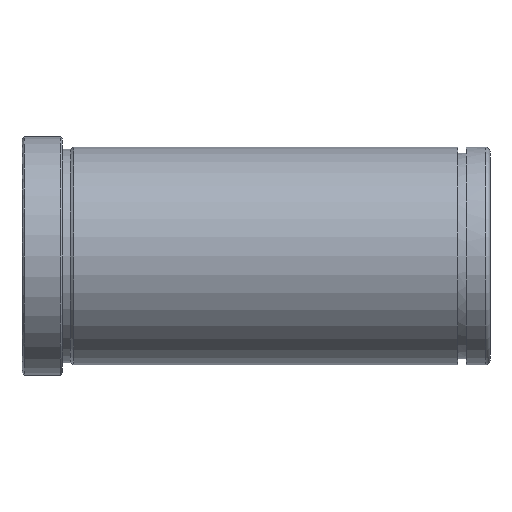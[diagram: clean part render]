
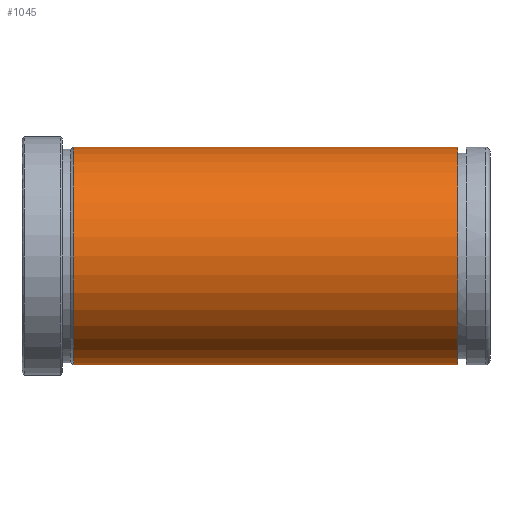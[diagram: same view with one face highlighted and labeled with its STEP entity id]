
A CAD part, front view. The second image highlights one B-rep face of the part: STEP entity #1045.
In plain terms, the highlighted cylindrical face has radius 27 mm (diameter 54 mm), a partial arc.
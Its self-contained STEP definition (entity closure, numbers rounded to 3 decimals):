
#851=CARTESIAN_POINT('Vertex',(12.866,0.,-27.)) ;
#858=CARTESIAN_POINT('Vertex',(12.866,0.,27.)) ;
#887=CARTESIAN_POINT('Axis2P3D Location',(12.866,0.,0.)) ;
#891=CARTESIAN_POINT('Vertex',(12.866,-27.,0.)) ;
#894=CARTESIAN_POINT('Axis2P3D Location',(12.866,0.,0.)) ;
#985=CARTESIAN_POINT('Line Origine',(232.,0.,27.)) ;
#989=CARTESIAN_POINT('Vertex',(108.,0.,27.)) ;
#1003=CARTESIAN_POINT('Vertex',(108.,0.,-27.)) ;
#1006=CARTESIAN_POINT('Line Origine',(232.,0.,-27.)) ;
#1020=CARTESIAN_POINT('Axis2P3D Location',(232.,0.,0.)) ;
#1025=CARTESIAN_POINT('Axis2P3D Location',(108.,0.,0.)) ;
#1029=CARTESIAN_POINT('Vertex',(108.,-27.,0.)) ;
#1032=CARTESIAN_POINT('Axis2P3D Location',(108.,0.,0.)) ;
#888=DIRECTION('Axis2P3D Direction',(1.,0.,-0.)) ;
#895=DIRECTION('Axis2P3D Direction',(1.,0.,-0.)) ;
#986=DIRECTION('Vector Direction',(-1.,0.,0.)) ;
#1007=DIRECTION('Vector Direction',(-1.,0.,0.)) ;
#1021=DIRECTION('Axis2P3D Direction',(-1.,-0.,-0.)) ;
#1022=DIRECTION('Axis2P3D XDirection',(0.,0.,-1.)) ;
#1026=DIRECTION('Axis2P3D Direction',(-1.,-0.,-0.)) ;
#1033=DIRECTION('Axis2P3D Direction',(-1.,-0.,-0.)) ;
#889=AXIS2_PLACEMENT_3D('Circle Axis2P3D',#887,#888,$) ;
#896=AXIS2_PLACEMENT_3D('Circle Axis2P3D',#894,#895,$) ;
#1023=AXIS2_PLACEMENT_3D('Cylinder Axis2P3D',#1020,#1021,#1022) ;
#1027=AXIS2_PLACEMENT_3D('Circle Axis2P3D',#1025,#1026,$) ;
#1034=AXIS2_PLACEMENT_3D('Circle Axis2P3D',#1032,#1033,$) ;
#1038=ORIENTED_EDGE('',*,*,#1010,.T.) ;
#1039=ORIENTED_EDGE('',*,*,#1031,.F.) ;
#1040=ORIENTED_EDGE('',*,*,#1036,.F.) ;
#1041=ORIENTED_EDGE('',*,*,#991,.T.) ;
#1042=ORIENTED_EDGE('',*,*,#898,.T.) ;
#1043=ORIENTED_EDGE('',*,*,#893,.T.) ;
#987=VECTOR('Line Direction',#986,1.) ;
#1008=VECTOR('Line Direction',#1007,1.) ;
#1045=ADVANCED_FACE('553-42X116',(#1044),#1024,.T.) ;
#890=CIRCLE('generated circle',#889,27.) ;
#897=CIRCLE('generated circle',#896,27.) ;
#1028=CIRCLE('generated circle',#1027,27.) ;
#1035=CIRCLE('generated circle',#1034,27.) ;
#1024=CYLINDRICAL_SURFACE('generated cylinder',#1023,27.) ;
#893=EDGE_CURVE('',#892,#852,#890,.T.) ;
#898=EDGE_CURVE('',#859,#892,#897,.T.) ;
#991=EDGE_CURVE('',#990,#859,#988,.T.) ;
#1010=EDGE_CURVE('',#852,#1004,#1009,.F.) ;
#1031=EDGE_CURVE('',#1030,#1004,#1028,.F.) ;
#1036=EDGE_CURVE('',#990,#1030,#1035,.F.) ;
#1037=EDGE_LOOP('',(#1038,#1039,#1040,#1041,#1042,#1043)) ;
#1044=FACE_OUTER_BOUND('',#1037,.T.) ;
#988=LINE('Line',#985,#987) ;
#1009=LINE('Line',#1006,#1008) ;
#852=VERTEX_POINT('',#851) ;
#859=VERTEX_POINT('',#858) ;
#892=VERTEX_POINT('',#891) ;
#990=VERTEX_POINT('',#989) ;
#1004=VERTEX_POINT('',#1003) ;
#1030=VERTEX_POINT('',#1029) ;
